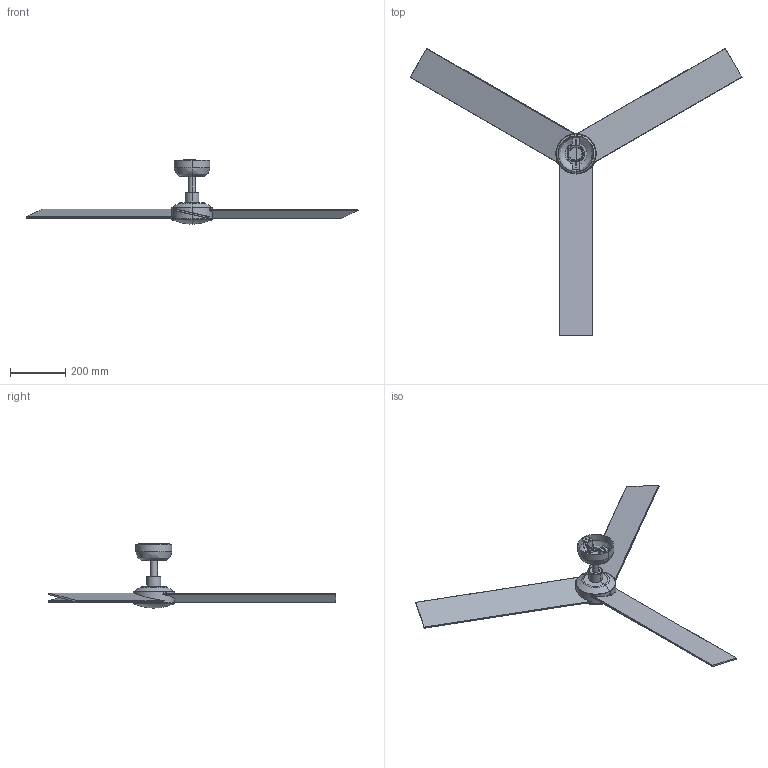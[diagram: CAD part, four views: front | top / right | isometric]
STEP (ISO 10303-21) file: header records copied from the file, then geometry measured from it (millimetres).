
FILE_DESCRIPTION(/* description */ (''),/* implementation_level */ '2;1');
FILE_NAME(/* name */ '34297_3d',/* time_stamp */ '2026-06-02T11:41:18+02:00',/* author */ (''),/* organization */ (''),/* preprocessor_version */ 'ST-DEVELOPER v19.2',/* originating_system */ 'Rhino 8.30',/* authorisation */ '');
FILE_SCHEMA (('CONFIG_CONTROL_DESIGN'));
Length unit declared in the file: millimetre
Products named in the file (1): Document
Bounding box: 1204.49 x 1043.19 x 233.02 mm (x, y, z)
Volume: 2084933.1 mm3; surface area: 692551.9 mm2
Topology: 5 solids, 6 shells, 248 faces, 666 edges, 414 vertices
Faces by surface type: plane 125, cylinder 89, bspline 34
Entity records: 12614 total; most frequent: CARTESIAN_POINT 6059, ORIENTED_EDGE 1316, EDGE_CURVE 664, DIRECTION 608, B_SPLINE_CURVE_WITH_KNOTS 431, VERTEX_POINT 414, AXIS2_PLACEMENT_3D 411, EDGE_LOOP 281
